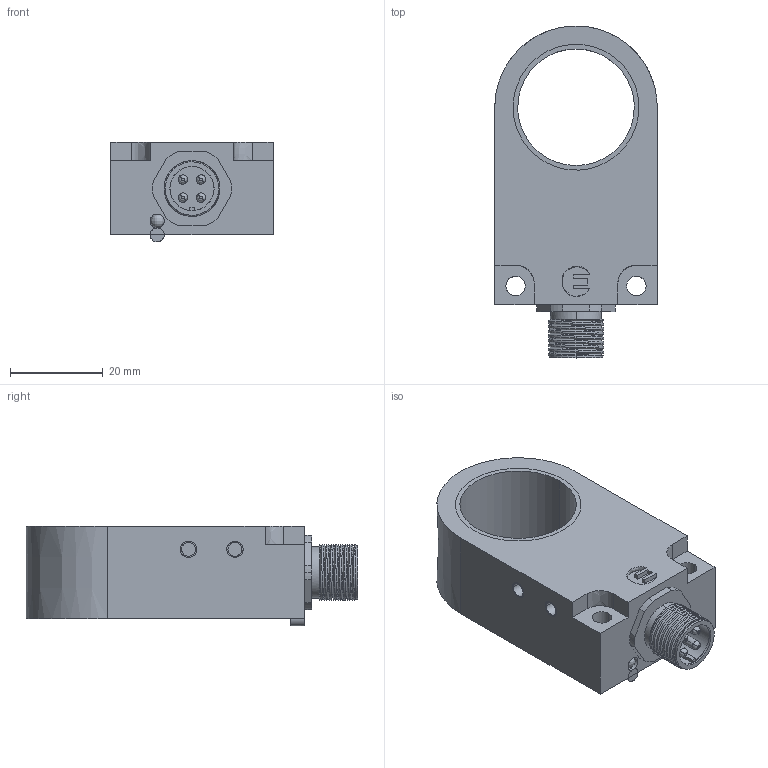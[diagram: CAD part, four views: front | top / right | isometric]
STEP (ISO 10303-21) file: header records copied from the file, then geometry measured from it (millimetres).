
FILE_DESCRIPTION(/* description */ (''),/* implementation_level */ '2;1');
FILE_NAME(/* name */ 'IR25',/* time_stamp */ '2008-03-03T13:35:47+01:00',/* author */ (''),/* organization */ (''),/* preprocessor_version */ 'ST-DEVELOPER v8',/* originating_system */ '',/* authorisation */ '');
FILE_SCHEMA (('CONFIG_CONTROL_DESIGN'));
Length unit declared in the file: millimetre
Products named in the file (1): 32
Bounding box: 35 x 71.5 x 21.5 mm (x, y, z)
Volume: 29236.3 mm3; surface area: 14585.4 mm2
Topology: 15 solids, 15 shells, 158 faces, 348 edges, 226 vertices
Faces by surface type: bspline 158
Entity records: 8689 total; most frequent: CARTESIAN_POINT 6483, ORIENTED_EDGE 688, EDGE_CURVE 344, VERTEX_POINT 257, B_SPLINE_CURVE_WITH_KNOTS 224, EDGE_LOOP 178, ADVANCED_FACE 158, FACE_OUTER_BOUND 158
